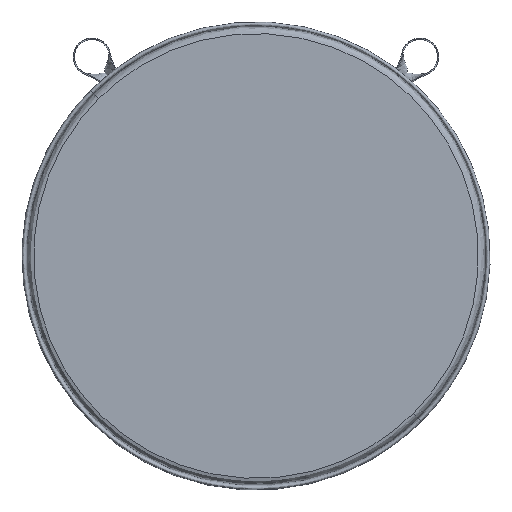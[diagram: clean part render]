
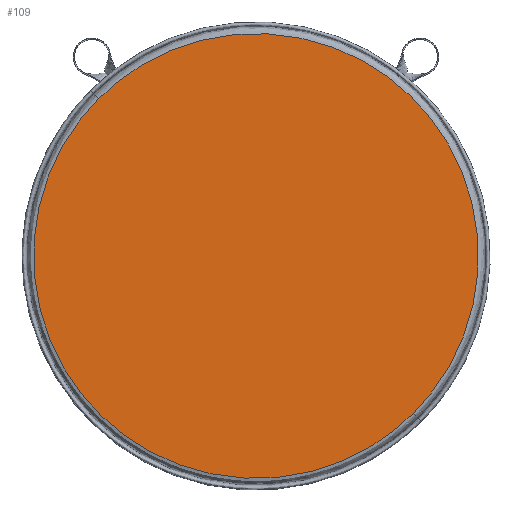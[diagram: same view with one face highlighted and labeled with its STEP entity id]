
A CAD part, top view. The second image highlights one B-rep face of the part: STEP entity #109.
In plain terms, the highlighted planar face has unit normal (0, 0, 1).
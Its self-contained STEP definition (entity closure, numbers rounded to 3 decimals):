
#109=ADVANCED_FACE('',(#196),#1224,.T.);
#196=FACE_OUTER_BOUND('',#283,.T.);
#283=EDGE_LOOP('',(#411,#412));
#411=ORIENTED_EDGE('',*,*,#746,.T.);
#412=ORIENTED_EDGE('',*,*,#742,.T.);
#742=EDGE_CURVE('',#1122,#1121,#932,.T.);
#746=EDGE_CURVE('',#1121,#1122,#936,.T.);
#932=(
BOUNDED_CURVE()
B_SPLINE_CURVE(2,(#2022,#2023,#2024,#2025,#2026),.UNSPECIFIED.,.F.,.F.)
B_SPLINE_CURVE_WITH_KNOTS((3,2,3),(-596.903,-298.451,0.),
 .UNSPECIFIED.)
CURVE()
GEOMETRIC_REPRESENTATION_ITEM()
RATIONAL_B_SPLINE_CURVE((1.,0.707,1.,0.707,1.))
REPRESENTATION_ITEM('')
);
#936=(
BOUNDED_CURVE()
B_SPLINE_CURVE(2,(#2040,#2041,#2042,#2043,#2044),.UNSPECIFIED.,.F.,.F.)
B_SPLINE_CURVE_WITH_KNOTS((3,2,3),(-1193.805,-895.354,
-596.903),.UNSPECIFIED.)
CURVE()
GEOMETRIC_REPRESENTATION_ITEM()
RATIONAL_B_SPLINE_CURVE((1.,0.707,1.,0.707,1.))
REPRESENTATION_ITEM('')
);
#1121=VERTEX_POINT('',#1987);
#1122=VERTEX_POINT('',#1988);
#1224=PLANE('',#1344);
#1344=AXIS2_PLACEMENT_3D('',#1799,#1375,$);
#1375=DIRECTION('',(0.,0.,1.));
#1799=CARTESIAN_POINT('',(315.67,-320.804,22.285));
#1987=CARTESIAN_POINT('',(-141.133,135.999,22.285));
#1988=CARTESIAN_POINT('',(127.567,-132.702,22.285));
#2022=CARTESIAN_POINT('',(127.567,-132.702,22.285));
#2023=CARTESIAN_POINT('',(261.917,1.648,22.285));
#2024=CARTESIAN_POINT('',(127.567,135.999,22.285));
#2025=CARTESIAN_POINT('',(-6.783,270.349,22.285));
#2026=CARTESIAN_POINT('',(-141.133,135.999,22.285));
#2040=CARTESIAN_POINT('',(-141.133,135.999,22.285));
#2041=CARTESIAN_POINT('',(-275.484,1.648,22.285));
#2042=CARTESIAN_POINT('',(-141.133,-132.702,22.285));
#2043=CARTESIAN_POINT('',(-6.783,-267.052,22.285));
#2044=CARTESIAN_POINT('',(127.567,-132.702,22.285));
